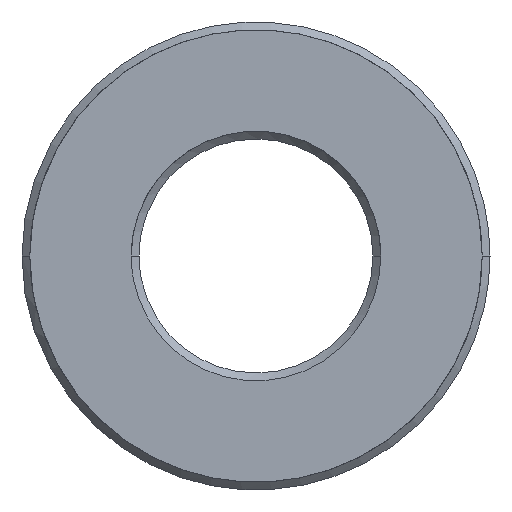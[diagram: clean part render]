
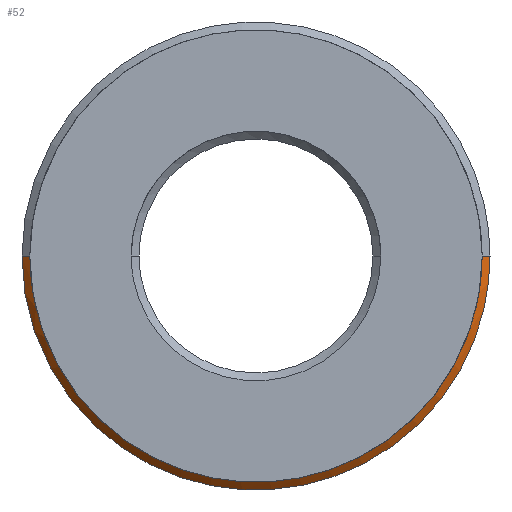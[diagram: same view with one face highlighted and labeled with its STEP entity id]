
A CAD part, left-side view. The second image highlights one B-rep face of the part: STEP entity #52.
In plain terms, the highlighted free-form (B-spline) face has degree [2, 1] with [9, 2] control points.
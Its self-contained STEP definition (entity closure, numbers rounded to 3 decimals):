
#52=ADVANCED_FACE('',(#84),#790,.T.);
#84=FACE_OUTER_BOUND('',#114,.T.);
#114=EDGE_LOOP('',(#195,#196,#197,#198));
#195=ORIENTED_EDGE('',*,*,#677,.T.);
#196=ORIENTED_EDGE('',*,*,#678,.T.);
#197=ORIENTED_EDGE('',*,*,#679,.T.);
#198=ORIENTED_EDGE('',*,*,#680,.T.);
#317=B_SPLINE_CURVE_WITH_KNOTS('',1,(#1606,#1607),.UNSPECIFIED.,.F.,.F.,
(2,2),(-8.283,-5.142),.UNSPECIFIED.);
#318=B_SPLINE_CURVE_WITH_KNOTS('',1,(#1608,#1609),.UNSPECIFIED.,.F.,.F.,
(2,2),(-5.142,-4.142),.UNSPECIFIED.);
#319=B_SPLINE_CURVE_WITH_KNOTS('',1,(#1610,#1611),.UNSPECIFIED.,.F.,.F.,
(2,2),(-5.142,-4.142),.UNSPECIFIED.);
#320=B_SPLINE_CURVE_WITH_KNOTS('',1,(#1617,#1618),.UNSPECIFIED.,.F.,.F.,
(2,2),(-4.142,-1.),.UNSPECIFIED.);
#321=B_SPLINE_CURVE_WITH_KNOTS('',1,(#1619,#1620),.UNSPECIFIED.,.F.,.F.,
(2,2),(-1.,0.),.UNSPECIFIED.);
#322=B_SPLINE_CURVE_WITH_KNOTS('',1,(#1621,#1622),.UNSPECIFIED.,.F.,.F.,
(2,2),(-1.,0.),.UNSPECIFIED.);
#323=B_SPLINE_CURVE_WITH_KNOTS('',1,(#1623,#1624),.UNSPECIFIED.,.F.,.F.,
(2,2),(-4.142,-1.),.UNSPECIFIED.);
#344=B_SPLINE_CURVE_WITH_KNOTS('',1,(#1690,#1691),.UNSPECIFIED.,.F.,.F.,
(2,2),(-5.142,-4.142),.UNSPECIFIED.);
#346=B_SPLINE_CURVE_WITH_KNOTS('',1,(#1699,#1700),.UNSPECIFIED.,.F.,.F.,
(2,2),(-1.,0.),.UNSPECIFIED.);
#427=PCURVE('',#790,#539);
#428=PCURVE('',#790,#540);
#429=PCURVE('',#790,#541);
#430=PCURVE('',#790,#542);
#431=PCURVE('',#791,#543);
#448=PCURVE('',#795,#560);
#450=PCURVE('',#795,#562);
#452=PCURVE('',#801,#564);
#539=DEFINITIONAL_REPRESENTATION('',(#317),#1786);
#540=DEFINITIONAL_REPRESENTATION('',(#319),#1786);
#541=DEFINITIONAL_REPRESENTATION('',(#320),#1786);
#542=DEFINITIONAL_REPRESENTATION('',(#322),#1786);
#543=DEFINITIONAL_REPRESENTATION('',(#323),#1786);
#560=DEFINITIONAL_REPRESENTATION('',(#344),#1786);
#562=DEFINITIONAL_REPRESENTATION('',(#346),#1786);
#564=DEFINITIONAL_REPRESENTATION('',(#732),#1786);
#621=SURFACE_CURVE('',#723,(#427,#452),.PCURVE_S1.);
#622=SURFACE_CURVE('',#318,(#428,#448),.PCURVE_S1.);
#623=SURFACE_CURVE('',#724,(#429,#431),.PCURVE_S1.);
#624=SURFACE_CURVE('',#321,(#430,#450),.PCURVE_S1.);
#677=EDGE_CURVE('',#767,#769,#621,.T.);
#678=EDGE_CURVE('',#769,#770,#622,.T.);
#679=EDGE_CURVE('',#770,#768,#623,.T.);
#680=EDGE_CURVE('',#768,#767,#624,.T.);
#723=(
BOUNDED_CURVE()
B_SPLINE_CURVE(2,(#1601,#1602,#1603,#1604,#1605),.UNSPECIFIED.,.F.,.F.)
B_SPLINE_CURVE_WITH_KNOTS((3,2,3),(-8.283,-6.712,-5.142),
 .UNSPECIFIED.)
CURVE()
GEOMETRIC_REPRESENTATION_ITEM()
RATIONAL_B_SPLINE_CURVE((1.,0.707,1.,0.707,1.))
REPRESENTATION_ITEM('')
);
#724=(
BOUNDED_CURVE()
B_SPLINE_CURVE(2,(#1612,#1613,#1614,#1615,#1616),.UNSPECIFIED.,.F.,.F.)
B_SPLINE_CURVE_WITH_KNOTS((3,2,3),(-4.142,-2.571,-1.),
 .UNSPECIFIED.)
CURVE()
GEOMETRIC_REPRESENTATION_ITEM()
RATIONAL_B_SPLINE_CURVE((1.,0.707,1.,0.707,1.))
REPRESENTATION_ITEM('')
);
#732=(
BOUNDED_CURVE()
B_SPLINE_CURVE(2,(#1706,#1707,#1708,#1709,#1710),.UNSPECIFIED.,.F.,.F.)
B_SPLINE_CURVE_WITH_KNOTS((3,2,3),(-8.283,-6.712,-5.142),
 .UNSPECIFIED.)
CURVE()
GEOMETRIC_REPRESENTATION_ITEM()
RATIONAL_B_SPLINE_CURVE((1.,0.707,1.,0.707,1.))
REPRESENTATION_ITEM('')
);
#767=VERTEX_POINT('',#1537);
#768=VERTEX_POINT('',#1538);
#769=VERTEX_POINT('',#1539);
#770=VERTEX_POINT('',#1540);
#790=(
BOUNDED_SURFACE()
B_SPLINE_SURFACE(2,1,((#1365,#1366),(#1367,#1368),(#1369,#1370),(#1371,#1372),
(#1373,#1374),(#1375,#1376),(#1377,#1378),(#1379,#1380),(#1381,#1382)),
 .UNSPECIFIED.,.T.,.F.,.F.)
B_SPLINE_SURFACE_WITH_KNOTS((3,2,2,2,3),(2,2),(0.,1.571,3.142,
4.712,6.283),(0.,1.),.UNSPECIFIED.)
GEOMETRIC_REPRESENTATION_ITEM()
RATIONAL_B_SPLINE_SURFACE(((1.,1.),(0.707,0.707),
(1.,1.),(0.707,0.707),(1.,1.),(0.707,
0.707),(1.,1.),(0.707,0.707),(1.,1.)))
REPRESENTATION_ITEM('')
SURFACE()
);
#791=(
BOUNDED_SURFACE()
B_SPLINE_SURFACE(2,1,((#1383,#1384),(#1385,#1386),(#1387,#1388),(#1389,#1390),
(#1391,#1392),(#1393,#1394),(#1395,#1396),(#1397,#1398),(#1399,#1400)),
 .UNSPECIFIED.,.T.,.F.,.F.)
B_SPLINE_SURFACE_WITH_KNOTS((3,2,2,2,3),(2,2),(0.,1.571,3.142,
4.712,6.283),(0.,1.),.UNSPECIFIED.)
GEOMETRIC_REPRESENTATION_ITEM()
RATIONAL_B_SPLINE_SURFACE(((1.,1.),(0.707,0.707),
(1.,1.),(0.707,0.707),(1.,1.),(0.707,
0.707),(1.,1.),(0.707,0.707),(1.,1.)))
REPRESENTATION_ITEM('')
SURFACE()
);
#795=(
BOUNDED_SURFACE()
B_SPLINE_SURFACE(2,1,((#1455,#1456),(#1457,#1458),(#1459,#1460),(#1461,#1462),
(#1463,#1464),(#1465,#1466),(#1467,#1468),(#1469,#1470),(#1471,#1472)),
 .UNSPECIFIED.,.T.,.F.,.F.)
B_SPLINE_SURFACE_WITH_KNOTS((3,2,2,2,3),(2,2),(0.,1.571,3.142,
4.712,6.283),(0.,1.),.UNSPECIFIED.)
GEOMETRIC_REPRESENTATION_ITEM()
RATIONAL_B_SPLINE_SURFACE(((1.,1.),(0.707,0.707),
(1.,1.),(0.707,0.707),(1.,1.),(0.707,
0.707),(1.,1.),(0.707,0.707),(1.,1.)))
REPRESENTATION_ITEM('')
SURFACE()
);
#801=PLANE('',#825);
#825=AXIS2_PLACEMENT_3D('',#1473,#832,$);
#832=DIRECTION('',(-1.,0.,0.));
#1365=CARTESIAN_POINT('',(-701.8,285.,30.));
#1366=CARTESIAN_POINT('',(-693.315,276.515,30.));
#1367=CARTESIAN_POINT('',(-701.8,285.,30.));
#1368=CARTESIAN_POINT('',(-693.315,276.515,21.515));
#1369=CARTESIAN_POINT('',(-701.8,285.,30.));
#1370=CARTESIAN_POINT('',(-693.315,285.,21.515));
#1371=CARTESIAN_POINT('',(-701.8,285.,30.));
#1372=CARTESIAN_POINT('',(-693.315,293.485,21.515));
#1373=CARTESIAN_POINT('',(-701.8,285.,30.));
#1374=CARTESIAN_POINT('',(-693.315,293.485,30.));
#1375=CARTESIAN_POINT('',(-701.8,285.,30.));
#1376=CARTESIAN_POINT('',(-693.315,293.485,38.485));
#1377=CARTESIAN_POINT('',(-701.8,285.,30.));
#1378=CARTESIAN_POINT('',(-693.315,285.,38.485));
#1379=CARTESIAN_POINT('',(-701.8,285.,30.));
#1380=CARTESIAN_POINT('',(-693.315,276.515,38.485));
#1381=CARTESIAN_POINT('',(-701.8,285.,30.));
#1382=CARTESIAN_POINT('',(-693.315,276.515,30.));
#1383=CARTESIAN_POINT('',(-695.8,279.,30.));
#1384=CARTESIAN_POINT('',(-694.2,279.,30.));
#1385=CARTESIAN_POINT('',(-695.8,279.,24.));
#1386=CARTESIAN_POINT('',(-694.2,279.,24.));
#1387=CARTESIAN_POINT('',(-695.8,285.,24.));
#1388=CARTESIAN_POINT('',(-694.2,285.,24.));
#1389=CARTESIAN_POINT('',(-695.8,291.,24.));
#1390=CARTESIAN_POINT('',(-694.2,291.,24.));
#1391=CARTESIAN_POINT('',(-695.8,291.,30.));
#1392=CARTESIAN_POINT('',(-694.2,291.,30.));
#1393=CARTESIAN_POINT('',(-695.8,291.,36.));
#1394=CARTESIAN_POINT('',(-694.2,291.,36.));
#1395=CARTESIAN_POINT('',(-695.8,285.,36.));
#1396=CARTESIAN_POINT('',(-694.2,285.,36.));
#1397=CARTESIAN_POINT('',(-695.8,279.,36.));
#1398=CARTESIAN_POINT('',(-694.2,279.,36.));
#1399=CARTESIAN_POINT('',(-695.8,279.,30.));
#1400=CARTESIAN_POINT('',(-694.2,279.,30.));
#1455=CARTESIAN_POINT('',(-701.8,285.,30.));
#1456=CARTESIAN_POINT('',(-693.315,276.515,30.));
#1457=CARTESIAN_POINT('',(-701.8,285.,30.));
#1458=CARTESIAN_POINT('',(-693.315,276.515,21.515));
#1459=CARTESIAN_POINT('',(-701.8,285.,30.));
#1460=CARTESIAN_POINT('',(-693.315,285.,21.515));
#1461=CARTESIAN_POINT('',(-701.8,285.,30.));
#1462=CARTESIAN_POINT('',(-693.315,293.485,21.515));
#1463=CARTESIAN_POINT('',(-701.8,285.,30.));
#1464=CARTESIAN_POINT('',(-693.315,293.485,30.));
#1465=CARTESIAN_POINT('',(-701.8,285.,30.));
#1466=CARTESIAN_POINT('',(-693.315,293.485,38.485));
#1467=CARTESIAN_POINT('',(-701.8,285.,30.));
#1468=CARTESIAN_POINT('',(-693.315,285.,38.485));
#1469=CARTESIAN_POINT('',(-701.8,285.,30.));
#1470=CARTESIAN_POINT('',(-693.315,276.515,38.485));
#1471=CARTESIAN_POINT('',(-701.8,285.,30.));
#1472=CARTESIAN_POINT('',(-693.315,276.515,30.));
#1473=CARTESIAN_POINT('',(-696.,290.8,35.8));
#1537=CARTESIAN_POINT('',(-696.,279.2,30.));
#1538=CARTESIAN_POINT('',(-695.8,279.,30.));
#1539=CARTESIAN_POINT('',(-696.,290.8,30.));
#1540=CARTESIAN_POINT('',(-695.8,291.,30.));
#1601=CARTESIAN_POINT('',(-696.,279.2,30.));
#1602=CARTESIAN_POINT('',(-696.,279.2,24.2));
#1603=CARTESIAN_POINT('',(-696.,285.,24.2));
#1604=CARTESIAN_POINT('',(-696.,290.8,24.2));
#1605=CARTESIAN_POINT('',(-696.,290.8,30.));
#1606=CARTESIAN_POINT('',(0.,0.684));
#1607=CARTESIAN_POINT('',(3.142,0.684));
#1608=CARTESIAN_POINT('',(-696.,290.8,30.));
#1609=CARTESIAN_POINT('',(-695.8,291.,30.));
#1610=CARTESIAN_POINT('',(3.142,0.684));
#1611=CARTESIAN_POINT('',(3.142,0.707));
#1612=CARTESIAN_POINT('',(-695.8,291.,30.));
#1613=CARTESIAN_POINT('',(-695.8,291.,24.));
#1614=CARTESIAN_POINT('',(-695.8,285.,24.));
#1615=CARTESIAN_POINT('',(-695.8,279.,24.));
#1616=CARTESIAN_POINT('',(-695.8,279.,30.));
#1617=CARTESIAN_POINT('',(3.142,0.707));
#1618=CARTESIAN_POINT('',(0.,0.707));
#1619=CARTESIAN_POINT('',(-695.8,279.,30.));
#1620=CARTESIAN_POINT('',(-696.,279.2,30.));
#1621=CARTESIAN_POINT('',(0.,0.707));
#1622=CARTESIAN_POINT('',(0.,0.684));
#1623=CARTESIAN_POINT('',(3.142,0.));
#1624=CARTESIAN_POINT('',(0.,0.));
#1690=CARTESIAN_POINT('',(3.142,0.684));
#1691=CARTESIAN_POINT('',(3.142,0.707));
#1699=CARTESIAN_POINT('',(6.283,0.707));
#1700=CARTESIAN_POINT('',(6.283,0.684));
#1706=CARTESIAN_POINT('',(0.5,1.));
#1707=CARTESIAN_POINT('',(1.,1.));
#1708=CARTESIAN_POINT('',(1.,0.5));
#1709=CARTESIAN_POINT('',(1.,0.));
#1710=CARTESIAN_POINT('',(0.5,0.));
#1786=(
GEOMETRIC_REPRESENTATION_CONTEXT(2)
PARAMETRIC_REPRESENTATION_CONTEXT()
REPRESENTATION_CONTEXT('pspace','')
);
